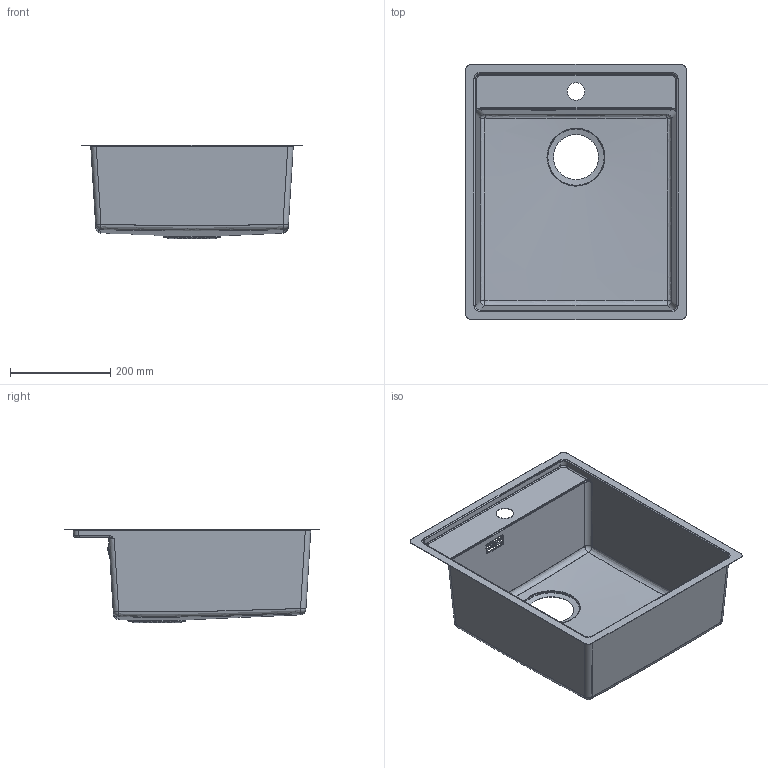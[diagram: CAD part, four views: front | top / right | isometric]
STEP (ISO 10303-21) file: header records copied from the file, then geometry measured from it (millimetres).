
FILE_DESCRIPTION(/* description */ (''),/* implementation_level */ '2;1');
FILE_NAME(/* name */ 'R40812_S_SST_CAD_V2508.stp',/* time_stamp */ '2025-08-18T13:54:14+02:00',/* author */ (''),/* organization */ (''),/* preprocessor_version */ 'ST-DEVELOPER v18.102',/* originating_system */ 'SIEMENS PLM Software NX2206.1700',/* authorisation */ '');
FILE_SCHEMA (('AUTOMOTIVE_DESIGN { 1 0 10303 214 3 1 1 1 }'));
Length unit declared in the file: millimetre
Products named in the file (1): Vero 40x40 (L) tapwing OKG KRG.1_objects
Bounding box: 440 x 510 x 186.47 mm (x, y, z)
Volume: 417538.2 mm3; surface area: 930211.9 mm2
Topology: 1 solids, 1 shells, 177 faces, 455 edges, 271 vertices
Faces by surface type: cylinder 55, plane 38, bspline 28, torus 21, extrusion 21, sphere 8, cone 6
Full cylindrical faces by diameter (mm): 35 x1, 90 x1, 114 x1, 115.8 x1
Entity records: 6804 total; most frequent: CARTESIAN_POINT 2657, ORIENTED_EDGE 858, DIRECTION 856, EDGE_CURVE 429, AXIS2_PLACEMENT_3D 333, VERTEX_POINT 265, EDGE_LOOP 202, VECTOR 190
